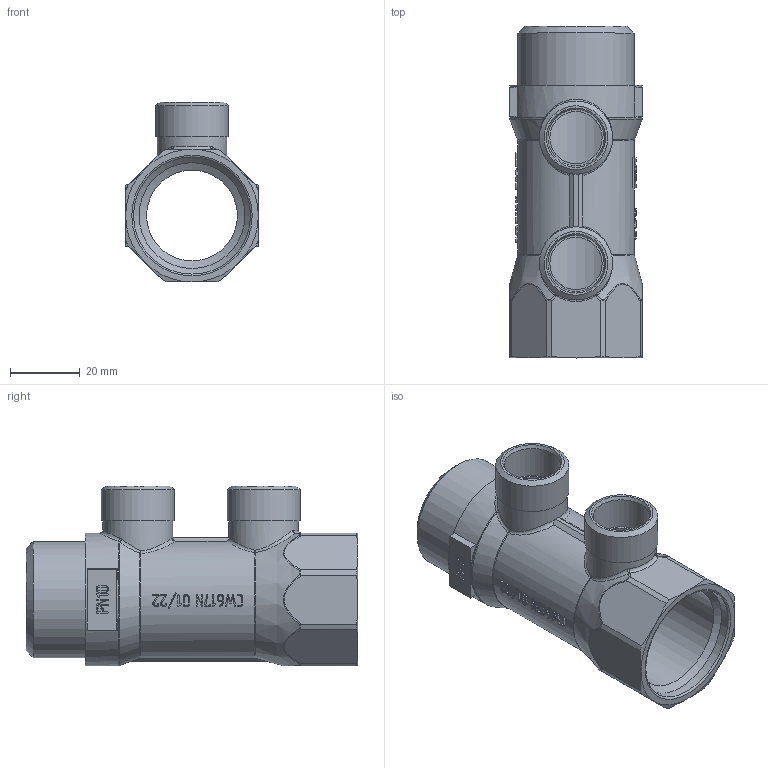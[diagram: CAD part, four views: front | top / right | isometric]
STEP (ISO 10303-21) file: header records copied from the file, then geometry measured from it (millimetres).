
FILE_DESCRIPTION(('STEP AP203'), '1');
FILE_NAME('ÂÐ.732182.025 - VTc.500.N.0602 Êîë. G1 (2õG1-2) L95', '2024-07-25T08:42:00', ('IT'), ('VESTA'), 'C3D Converter', 'C3D Toolkit', '');
FILE_SCHEMA(('CONFIG_CONTROL_DESIGN'));
Length unit declared in the file: millimetre
Products named in the file (1): ВР.732182.025
Bounding box: 38 x 95 x 51.5 mm (x, y, z)
Volume: 32810.7 mm3; surface area: 23852.8 mm2
Topology: 1 solids, 1 shells, 674 faces, 1864 edges, 1227 vertices
Faces by surface type: extrusion 340, plane 231, cylinder 44, bspline 26, cone 18, torus 15
Full cylindrical faces by diameter (mm): 15 x2, 16.1 x2, 20 x2, 20.955 x2, 26 x1, 30.292 x1, 33.249 x1, 33.5 x1, 38 x1
Entity records: 31397 total; most frequent: CARTESIAN_POINT 16156, ORIENTED_EDGE 3678, DIRECTION 2010, EDGE_CURVE 1839, VERTEX_POINT 1227, B_SPLINE_CURVE_WITH_KNOTS 1151, VECTOR 1112, LINE 772
